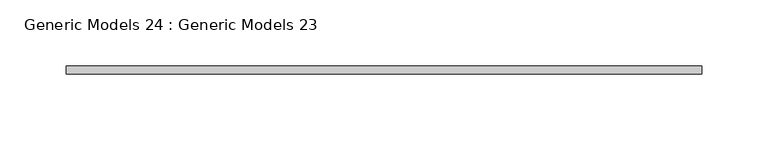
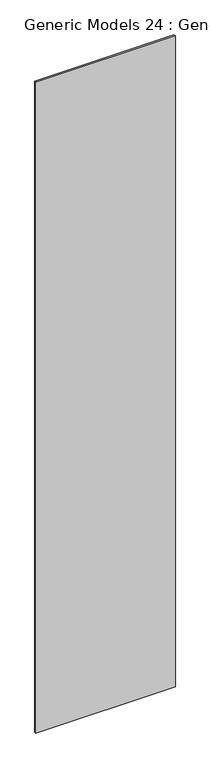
"""IFC4 building model written with IfcOpenShell, lengths in millimetres: proxy geometry, Generic Models 24 : Generic Models 23."""

from ifc_helpers import new_model, si_unit, frame, origin, place, context, project, spatial, polyline, outline, extrude, source, transform, mapped, element, save


def generic_models_24_generic_models_23_312cb668(model_context):
    return source(origin(), model_context, "Body", "SweptSolid", [
        extrude(outline(polyline([(91967.6058376, 13137.5207549), (92446.2614834, 13137.5207549), (92446.2614834, 13131.4952727), (91967.6058376, 13131.4952727), (91967.6058376, 13137.5207549)])), frame((0.0, 0.0, 450.0), z_axis=(0.0, 0.0, 1.0), x_axis=(1.0, 0.0, 0.0)), (0.0, 0.0, 1.0), 2360.0376502),
    ])


if __name__ == "__main__":
    model = new_model("IFC4")
    model_context = context("Model", 3, world=origin())
    ifc_project = project(units=[si_unit("LENGTHUNIT", "METRE", prefix="MILLI")], contexts=[model_context])
    site = spatial("IfcSite", under=ifc_project)
    building = spatial("IfcBuilding", under=site)
    placement = place(None, origin())
    generic_models_24_generic_models_23_shape = generic_models_24_generic_models_23_312cb668(model_context)
    element("IfcBuildingElementProxy", 1, Name="Generic Models 24 : Generic Models 23", ObjectType="Generic Models 24 : Generic Models 23", at=placement, inside=building, context=model_context, shape_type="MappedRepresentation", body=[
        mapped(generic_models_24_generic_models_23_shape, transform((0.0, 0.0, 0.0), x_axis=(1.0, 0.0, 0.0), y_axis=(0.0, 1.0, 0.0), z_axis=(0.0, 0.0, 1.0))),
    ])
    save(model, "model.ifc")
